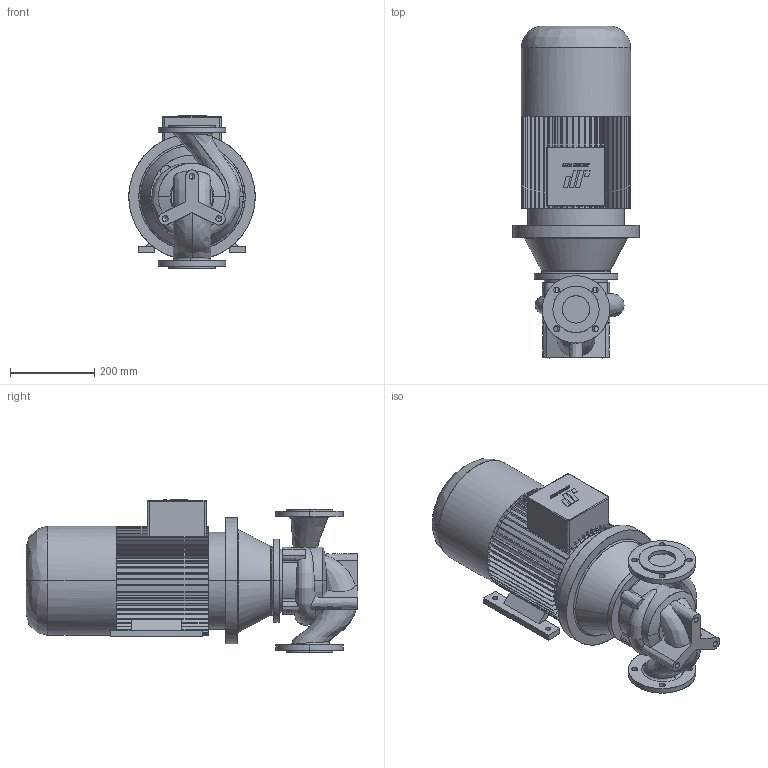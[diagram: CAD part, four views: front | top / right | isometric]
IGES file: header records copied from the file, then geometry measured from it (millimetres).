
Start section: CombiLine
Global section: file name: CLB_65-125_IEC132M.igs; native system:  By UGS Corp.; preprocessor: XPlus GENERIC/IGES 3.0; author: Stageplaats; organization: Johnson Pump Water B.V.; date: 20070713.132435; units: millimetre
Bounding box: 300 x 788 x 363 mm (x, y, z)
Surface area: 1229342.9 mm2 (no closed solid volume)
Topology: 0 solids, 0 shells, 562 faces, 3400 edges, 3394 vertices
Faces by surface type: bspline 562
